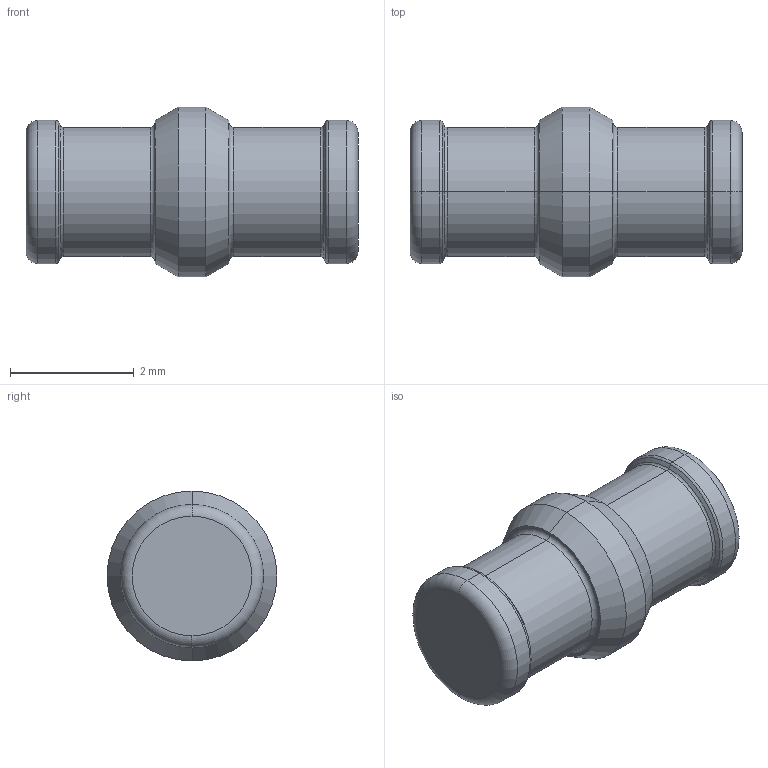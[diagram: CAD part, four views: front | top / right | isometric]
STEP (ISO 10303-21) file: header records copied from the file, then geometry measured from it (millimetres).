
FILE_DESCRIPTION (( 'STEP AP214' ), '1' );
FILE_NAME ('3290-4002.STEP', '2015-04-16T17:17:02', ( 'image' ), ( '' ), 'SwSTEP 2.0', 'SolidWorks 2014', '' );
FILE_SCHEMA (( 'AUTOMOTIVE_DESIGN' ));
Length unit declared in the file: inch
Products named in the file (1): 3290-4002
Bounding box: 5.36 x 2.74 x 2.74 mm (x, y, z)
Volume: 21.3 mm3; surface area: 47.8 mm2
Topology: 1 solids, 1 shells, 38 faces, 74 edges, 40 vertices
Faces by surface type: torus 16, cylinder 10, cone 8, plane 4
Entity records: 1010 total; most frequent: DIRECTION 208, CARTESIAN_POINT 153, ORIENTED_EDGE 148, AXIS2_PLACEMENT_3D 95, EDGE_CURVE 74, CIRCLE 56, VERTEX_POINT 40, EDGE_LOOP 40
